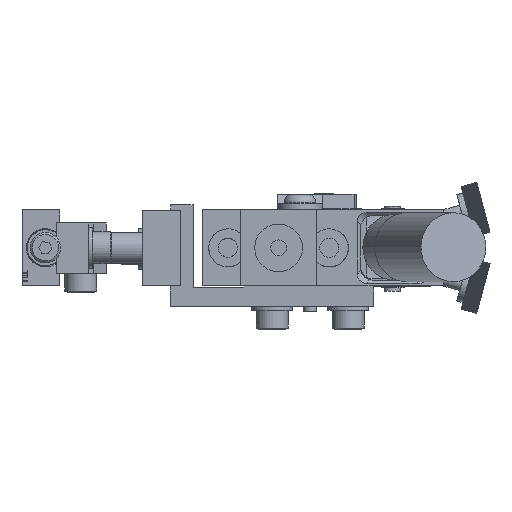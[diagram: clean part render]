
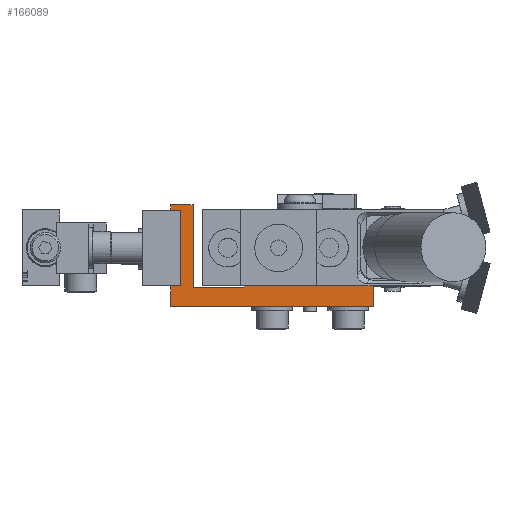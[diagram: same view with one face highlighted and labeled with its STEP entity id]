
A CAD part, left-side view. The second image highlights one B-rep face of the part: STEP entity #166089.
In plain terms, the highlighted planar face has unit normal (-1, 0, 0).
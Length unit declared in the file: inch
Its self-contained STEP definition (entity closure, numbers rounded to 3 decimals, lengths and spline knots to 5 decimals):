
#9924=CARTESIAN_POINT('',(-0.4995,1.8755,0.));
#9925=VERTEX_POINT('',#9924);
#9991=CARTESIAN_POINT('',(-0.4995,1.8755,0.745));
#9992=VERTEX_POINT('',#9991);
#10683=CARTESIAN_POINT('',(-0.4995,1.8755,0.));
#10684=DIRECTION('',(0.0,0.0,1.0));
#10685=VECTOR('',#10684,0.745);
#10686=LINE('',#10683,#10685);
#10687=EDGE_CURVE('',#9925,#9992,#10686,.T.);
#165639=CARTESIAN_POINT('',(-0.4995,1.1555,0.));
#165640=VERTEX_POINT('',#165639);
#165647=CARTESIAN_POINT('',(-0.4995,-0.1245,0.));
#165648=VERTEX_POINT('',#165647);
#165649=CARTESIAN_POINT('',(-0.4995,1.1555,0.));
#165650=DIRECTION('',(0.0,-1.0,0.0));
#165651=VECTOR('',#165650,1.28);
#165652=LINE('',#165649,#165651);
#165653=EDGE_CURVE('',#165640,#165648,#165652,.T.);
#166020=CARTESIAN_POINT('',(-0.4995,0.76361,-0.10189));
#166021=DIRECTION('',(1.0,0.0,0.0));
#166022=DIRECTION('',(0.0,-1.0,0.0));
#166023=AXIS2_PLACEMENT_3D('',#166020,#166021,#166022);
#166024=PLANE('',#166023);
#166025=CARTESIAN_POINT('',(-0.4995,1.8755,-0.2));
#166026=VERTEX_POINT('',#166025);
#166027=CARTESIAN_POINT('',(-0.4995,-0.1245,-0.2));
#166028=VERTEX_POINT('',#166027);
#166029=CARTESIAN_POINT('',(-0.4995,1.8755,-0.2));
#166030=DIRECTION('',(0.0,-1.0,0.0));
#166031=VECTOR('',#166030,2.);
#166032=LINE('',#166029,#166031);
#166033=EDGE_CURVE('',#166026,#166028,#166032,.T.);
#166034=ORIENTED_EDGE('',*,*,#166033,.T.);
#166035=CARTESIAN_POINT('',(-0.4995,-0.1245,-0.2));
#166036=DIRECTION('',(0.0,0.0,1.0));
#166037=VECTOR('',#166036,0.2);
#166038=LINE('',#166035,#166037);
#166039=EDGE_CURVE('',#166028,#165648,#166038,.T.);
#166040=ORIENTED_EDGE('',*,*,#166039,.T.);
#166041=ORIENTED_EDGE('',*,*,#165653,.F.);
#166042=CARTESIAN_POINT('',(-0.4995,1.1555,-0.015));
#166043=VERTEX_POINT('',#166042);
#166044=CARTESIAN_POINT('',(-0.4995,1.1555,0.));
#166045=DIRECTION('',(0.0,0.0,-1.0));
#166046=VECTOR('',#166045,0.015);
#166047=LINE('',#166044,#166046);
#166048=EDGE_CURVE('',#165640,#166043,#166047,.T.);
#166049=ORIENTED_EDGE('',*,*,#166048,.T.);
#166050=CARTESIAN_POINT('',(-0.4995,1.6555,-0.015));
#166051=VERTEX_POINT('',#166050);
#166052=CARTESIAN_POINT('',(-0.4995,1.1555,-0.015));
#166053=DIRECTION('',(0.0,1.0,0.0));
#166054=VECTOR('',#166053,0.5);
#166055=LINE('',#166052,#166054);
#166056=EDGE_CURVE('',#166043,#166051,#166055,.T.);
#166057=ORIENTED_EDGE('',*,*,#166056,.T.);
#166058=CARTESIAN_POINT('',(-0.4995,1.6555,0.8));
#166059=VERTEX_POINT('',#166058);
#166060=CARTESIAN_POINT('',(-0.4995,1.6555,-0.015));
#166061=DIRECTION('',(0.0,0.0,1.0));
#166062=VECTOR('',#166061,0.815);
#166063=LINE('',#166060,#166062);
#166064=EDGE_CURVE('',#166051,#166059,#166063,.T.);
#166065=ORIENTED_EDGE('',*,*,#166064,.T.);
#166066=CARTESIAN_POINT('',(-0.4995,1.8755,0.8));
#166067=VERTEX_POINT('',#166066);
#166068=CARTESIAN_POINT('',(-0.4995,1.6555,0.8));
#166069=DIRECTION('',(0.0,1.0,0.0));
#166070=VECTOR('',#166069,0.22);
#166071=LINE('',#166068,#166070);
#166072=EDGE_CURVE('',#166059,#166067,#166071,.T.);
#166073=ORIENTED_EDGE('',*,*,#166072,.T.);
#166074=CARTESIAN_POINT('',(-0.4995,1.8755,0.8));
#166075=DIRECTION('',(0.0,0.0,-1.0));
#166076=VECTOR('',#166075,0.055);
#166077=LINE('',#166074,#166076);
#166078=EDGE_CURVE('',#166067,#9992,#166077,.T.);
#166079=ORIENTED_EDGE('',*,*,#166078,.T.);
#166080=ORIENTED_EDGE('',*,*,#10687,.F.);
#166081=CARTESIAN_POINT('',(-0.4995,1.8755,0.));
#166082=DIRECTION('',(0.0,0.0,-1.0));
#166083=VECTOR('',#166082,0.2);
#166084=LINE('',#166081,#166083);
#166085=EDGE_CURVE('',#9925,#166026,#166084,.T.);
#166086=ORIENTED_EDGE('',*,*,#166085,.T.);
#166087=EDGE_LOOP('',(#166034,#166040,#166041,#166049,#166057,#166065,#166073,#166079,#166080,#166086));
#166088=FACE_OUTER_BOUND('',#166087,.T.);
#166089=ADVANCED_FACE('',(#166088),#166024,.F.);
